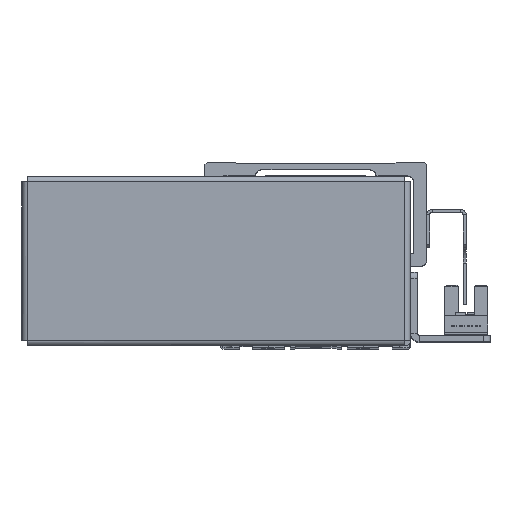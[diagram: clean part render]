
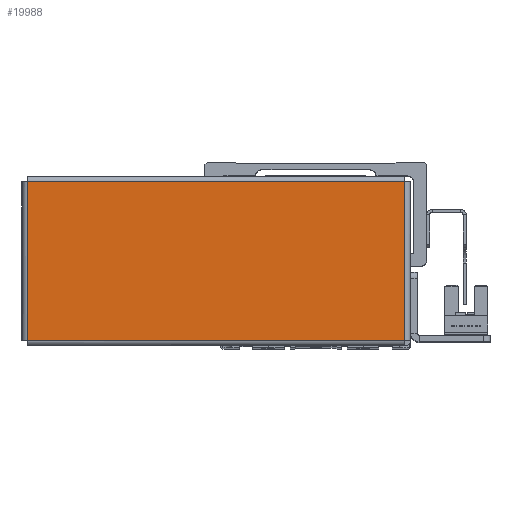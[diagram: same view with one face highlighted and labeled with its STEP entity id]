
A CAD part, top view. The second image highlights one B-rep face of the part: STEP entity #19988.
In plain terms, the highlighted planar face has unit normal (0, 0, 1) as drawn and (0, 0, -1) by its records, which use the part's own axes.
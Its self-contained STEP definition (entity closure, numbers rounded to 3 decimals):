
#4879 = VERTEX_POINT ( 'NONE', #23703 ) ;
#4890 = VERTEX_POINT ( 'NONE', #23723 ) ;
#4904 = VERTEX_POINT ( 'NONE', #23734 ) ;
#4922 = VERTEX_POINT ( 'NONE', #23682 ) ;
#7948 = FACE_OUTER_BOUND ( 'NONE', #18961, .T. ) ;
#9628 = AXIS2_PLACEMENT_3D ( 'NONE', #10592, #10609, #10616 ) ;
#10592 = CARTESIAN_POINT ( 'NONE',  ( 0., 0., -1. ) ) ;
#10609 = DIRECTION ( 'NONE',  ( 0., 0., 1. ) ) ;
#10616 = DIRECTION ( 'NONE',  ( 1., 0., 0. ) ) ;
#10622 = PLANE ( 'NONE',  #9628 ) ;
#13239 = EDGE_CURVE ( 'NONE', #4922, #4890, #24888, .T. ) ;
#13271 = EDGE_CURVE ( 'NONE', #4890, #4904, #24871, .T. ) ;
#13291 = EDGE_CURVE ( 'NONE', #4904, #4879, #24968, .T. ) ;
#13309 = EDGE_CURVE ( 'NONE', #4879, #4922, #24956, .T. ) ;
#18961 = EDGE_LOOP ( 'NONE', ( #29378, #29371, #29385, #29355 ) ) ;
#19988 = ADVANCED_FACE ( 'NONE', ( #7948 ), #10622, .F. ) ;
#23450 = DIRECTION ( 'NONE',  ( 0., -1., 0. ) ) ;
#23455 = CARTESIAN_POINT ( 'NONE',  ( 59.513, 25.043, -1. ) ) ;
#23682 = CARTESIAN_POINT ( 'NONE',  ( -59.513, -25.013, -1. ) ) ;
#23703 = CARTESIAN_POINT ( 'NONE',  ( 59.513, -25.013, -1. ) ) ;
#23723 = CARTESIAN_POINT ( 'NONE',  ( -59.513, 25.013, -1. ) ) ;
#23734 = CARTESIAN_POINT ( 'NONE',  ( 59.513, 25.013, -1. ) ) ;
#24533 = DIRECTION ( 'NONE',  ( 0., 1., 0. ) ) ;
#24547 = CARTESIAN_POINT ( 'NONE',  ( -59.513, -25.043, -1. ) ) ;
#24627 = CARTESIAN_POINT ( 'NONE',  ( -59.543, 25.013, -1. ) ) ;
#24633 = DIRECTION ( 'NONE',  ( 1., 0., 0. ) ) ;
#24871 = LINE ( 'NONE', #24627, #24872 ) ;
#24872 = VECTOR ( 'NONE', #24633, 1000. ) ;
#24877 = VECTOR ( 'NONE', #24533, 1000. ) ;
#24888 = LINE ( 'NONE', #24547, #24877 ) ;
#24911 = VECTOR ( 'NONE', #26448, 1000. ) ;
#24950 = VECTOR ( 'NONE', #23450, 1000. ) ;
#24956 = LINE ( 'NONE', #26442, #24911 ) ;
#24968 = LINE ( 'NONE', #23455, #24950 ) ;
#26442 = CARTESIAN_POINT ( 'NONE',  ( 59.543, -25.013, -1. ) ) ;
#26448 = DIRECTION ( 'NONE',  ( -1., 0., 0. ) ) ;
#29355 = ORIENTED_EDGE ( 'NONE', *, *, #13271, .T. ) ;
#29371 = ORIENTED_EDGE ( 'NONE', *, *, #13309, .T. ) ;
#29378 = ORIENTED_EDGE ( 'NONE', *, *, #13291, .T. ) ;
#29385 = ORIENTED_EDGE ( 'NONE', *, *, #13239, .T. ) ;
